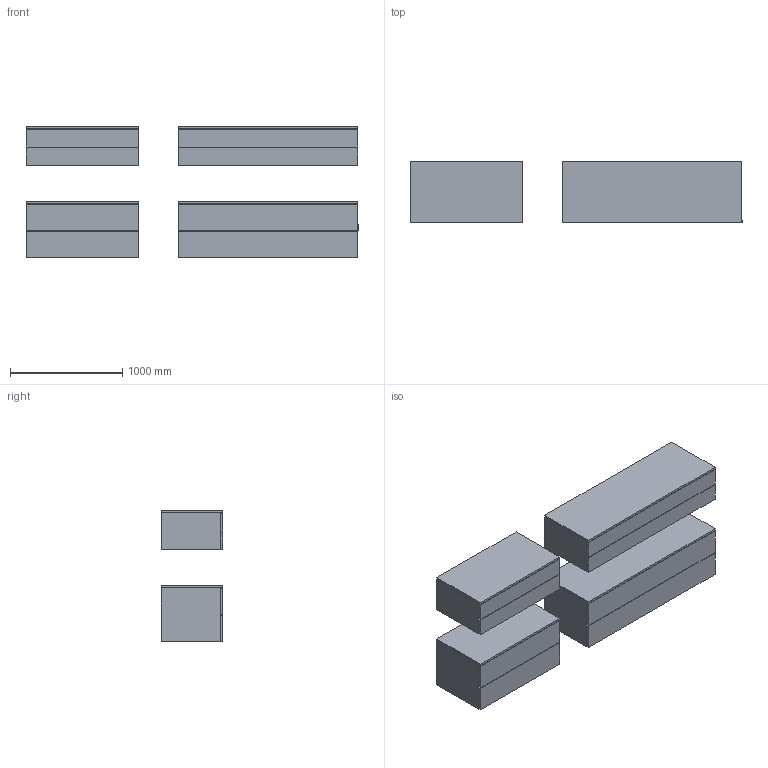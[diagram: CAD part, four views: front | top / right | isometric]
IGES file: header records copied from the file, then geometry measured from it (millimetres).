
Global section: file name: \\Archi-NAS\Comune\X GIOVANNI\MOBILI\BOXLINE\BOXLINE_7.igs; native system: Rhinoceros ( Feb 23 2021 ); preprocessor: Trout Lake IGES 012 Feb 23 2021; date: 230607.152838; units: millimetre
Bounding box: 2961.78 x 550 x 1171.3 mm (x, y, z)
Surface area: 38738920 mm2 (no closed solid volume)
Topology: 0 solids, 0 shells, 508 faces, 2040 edges, 2040 vertices
Faces by surface type: bspline 508
